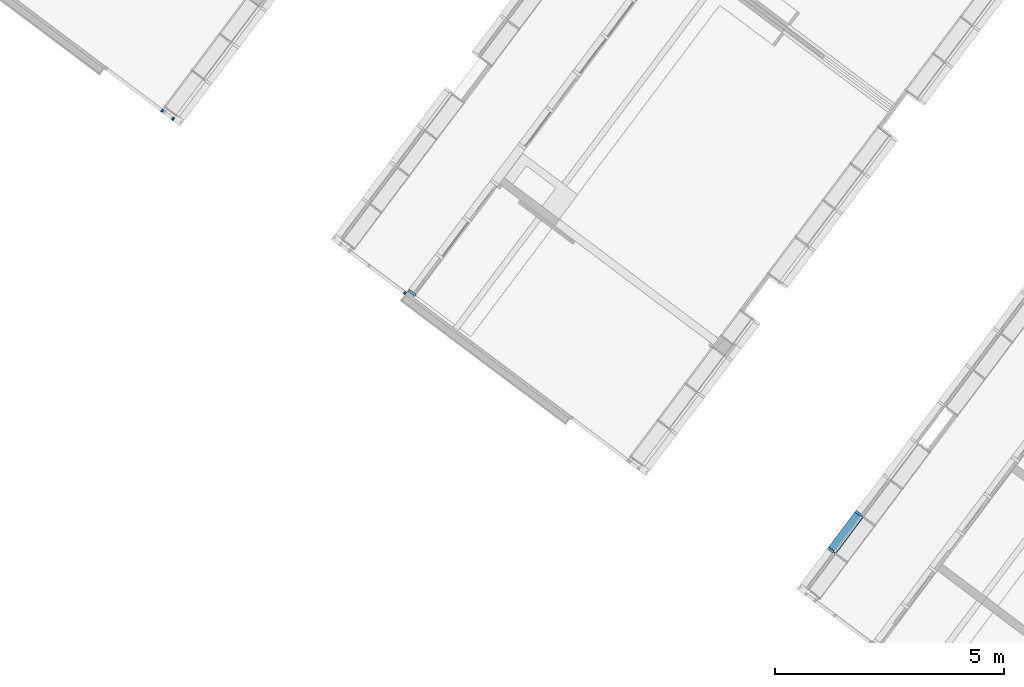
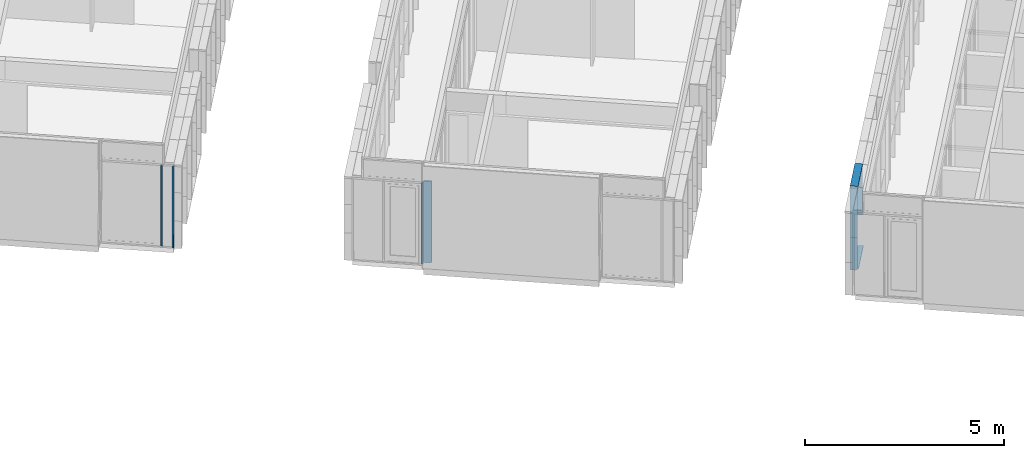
# One storey, part 2 of 243: 9 members, 4 elements without a shape of their own.
"""IFC2X3 building model written with IfcOpenShell, lengths in metres."""

from ifc_helpers import new_model, entity, si_unit, converted_unit, derived_unit, direction, frame, frame_2d, origin, place, context, subcontext, project, spatial, polyline, circle_curve, parameter, trimmed, segment, composite_curve, rectangle, outline, extrude, source, transform, mapped, material, type_object, type_shapes, element, aggregate, save


model = new_model("IFC2X3")

# Units and contexts
model_context = context("Model", 3, precision=1e-05, world=origin(), true_north=direction((6.123031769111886e-17, 1.0)))
body_context = subcontext(model_context, "Body", "Model", "MODEL_VIEW")
ifc_project = project(units=[si_unit("LENGTHUNIT", "METRE"), si_unit("AREAUNIT", "SQUARE_METRE"), si_unit("VOLUMEUNIT", "CUBIC_METRE"), converted_unit("PLANEANGLEUNIT", "DEGREE", entity("IfcRatioMeasure", 0.017453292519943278), si_unit("PLANEANGLEUNIT", "RADIAN"), dimensions=[0, 0, 0, 0, 0, 0, 0]), si_unit("MASSUNIT", "GRAM", prefix="KILO"), derived_unit("MASSDENSITYUNIT", [(si_unit("MASSUNIT", "GRAM", prefix="KILO"), 1), (si_unit("LENGTHUNIT", "METRE"), -3)]), derived_unit("IONCONCENTRATIONUNIT", [(si_unit("MASSUNIT", "GRAM", prefix="KILO"), 1), (si_unit("LENGTHUNIT", "METRE"), -3)]), derived_unit("MOMENTOFINERTIAUNIT", [(si_unit("LENGTHUNIT", "METRE"), 4)]), si_unit("TIMEUNIT", "SECOND"), si_unit("FREQUENCYUNIT", "HERTZ"), si_unit("THERMODYNAMICTEMPERATUREUNIT", "DEGREE_CELSIUS"), derived_unit("THERMALTRANSMITTANCEUNIT", [(si_unit("MASSUNIT", "GRAM", prefix="KILO"), 1), (si_unit("THERMODYNAMICTEMPERATUREUNIT", "KELVIN"), -1), (si_unit("TIMEUNIT", "SECOND"), -3)]), derived_unit("THERMALCONDUCTANCEUNIT", [(si_unit("MASSUNIT", "GRAM", prefix="KILO"), 1), (si_unit("THERMODYNAMICTEMPERATUREUNIT", "KELVIN"), -1), (si_unit("TIMEUNIT", "SECOND"), -3), (si_unit("LENGTHUNIT", "METRE"), 1)]), derived_unit("VOLUMETRICFLOWRATEUNIT", [(si_unit("LENGTHUNIT", "METRE"), 3), (si_unit("TIMEUNIT", "SECOND"), -1)]), derived_unit("MASSFLOWRATEUNIT", [(si_unit("MASSUNIT", "GRAM", prefix="KILO"), 1), (si_unit("TIMEUNIT", "SECOND"), -1)]), derived_unit("ROTATIONALFREQUENCYUNIT", [(si_unit("TIMEUNIT", "SECOND"), -1)]), si_unit("ELECTRICCURRENTUNIT", "AMPERE"), si_unit("ELECTRICVOLTAGEUNIT", "VOLT"), si_unit("POWERUNIT", "WATT"), si_unit("FORCEUNIT", "NEWTON", prefix="KILO"), si_unit("ILLUMINANCEUNIT", "LUX"), si_unit("LUMINOUSFLUXUNIT", "LUMEN"), si_unit("LUMINOUSINTENSITYUNIT", "CANDELA"), derived_unit("USERDEFINED", [(si_unit("MASSUNIT", "GRAM", prefix="KILO"), -1), (si_unit("LENGTHUNIT", "METRE"), -2), (si_unit("TIMEUNIT", "SECOND"), 3), (si_unit("LUMINOUSFLUXUNIT", "LUMEN"), 1)]), derived_unit("USERDEFINED", [(si_unit("MASSUNIT", "GRAM", prefix="KILO"), 1), (si_unit("TIMEUNIT", "SECOND"), -3), (si_unit("LENGTHUNIT", "METRE"), 3), (si_unit("ELECTRICCURRENTUNIT", "AMPERE"), -2)]), derived_unit("SOUNDPOWERUNIT", [(si_unit("MASSUNIT", "GRAM", prefix="KILO"), 1), (si_unit("TIMEUNIT", "SECOND"), -3), (si_unit("LENGTHUNIT", "METRE"), 2)]), derived_unit("SOUNDPRESSUREUNIT", [(si_unit("MASSUNIT", "GRAM", prefix="KILO"), 1), (si_unit("LENGTHUNIT", "METRE"), -1), (si_unit("TIMEUNIT", "SECOND"), -2)]), derived_unit("LINEARVELOCITYUNIT", [(si_unit("LENGTHUNIT", "METRE"), 1), (si_unit("TIMEUNIT", "SECOND"), -1)]), si_unit("PRESSUREUNIT", "PASCAL"), derived_unit("USERDEFINED", [(si_unit("MASSUNIT", "GRAM", prefix="KILO"), 1), (si_unit("LENGTHUNIT", "METRE"), -2), (si_unit("TIMEUNIT", "SECOND"), -2)]), derived_unit("LINEARFORCEUNIT", [(si_unit("MASSUNIT", "GRAM", prefix="KILO"), 1), (si_unit("TIMEUNIT", "SECOND"), -2)]), derived_unit("PLANARFORCEUNIT", [(si_unit("MASSUNIT", "GRAM", prefix="KILO"), 1), (si_unit("LENGTHUNIT", "METRE"), -1), (si_unit("TIMEUNIT", "SECOND"), -2)]), derived_unit("SPECIFICHEATCAPACITYUNIT", [(si_unit("THERMODYNAMICTEMPERATUREUNIT", "KELVIN"), -1), (si_unit("LENGTHUNIT", "METRE"), 2), (si_unit("TIMEUNIT", "SECOND"), -2)]), derived_unit("HEATINGVALUEUNIT", [(si_unit("LENGTHUNIT", "METRE"), 2), (si_unit("TIMEUNIT", "SECOND"), -2)]), derived_unit("VAPORPERMEABILITYUNIT", [(si_unit("LENGTHUNIT", "METRE"), -1), (si_unit("TIMEUNIT", "SECOND"), 1)]), derived_unit("DYNAMICVISCOSITYUNIT", [(si_unit("MASSUNIT", "GRAM", prefix="KILO"), 1), (si_unit("TIMEUNIT", "SECOND"), -1), (si_unit("LENGTHUNIT", "METRE"), -1)]), derived_unit("THERMALEXPANSIONCOEFFICIENTUNIT", [(si_unit("THERMODYNAMICTEMPERATUREUNIT", "KELVIN"), -1)]), derived_unit("MODULUSOFELASTICITYUNIT", [(si_unit("MASSUNIT", "GRAM", prefix="KILO"), 1), (si_unit("LENGTHUNIT", "METRE"), -1), (si_unit("TIMEUNIT", "SECOND"), -2)]), derived_unit("ISOTHERMALMOISTURECAPACITYUNIT", [(si_unit("LENGTHUNIT", "METRE"), 3), (si_unit("MASSUNIT", "GRAM", prefix="KILO"), -1)]), derived_unit("MOISTUREDIFFUSIVITYUNIT", [(si_unit("TIMEUNIT", "SECOND"), -1), (si_unit("LENGTHUNIT", "METRE"), 2)])], contexts=[model_context])

# Site, building, storey
site_placement = place(None, frame((0.0, 0.0, 235.0), z_axis=(0.0, 0.0, 1.0), x_axis=(-0.7996477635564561, 0.6004693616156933, 0.0)))
site = spatial("IfcSite", under=ifc_project, at=site_placement, Name="Default", CompositionType="ELEMENT")
building_placement = place(site_placement, origin())
building = spatial("IfcBuilding", under=site, at=building_placement, CompositionType="ELEMENT")
storey_placement = place(building_placement, origin())
storey = spatial("IfcBuildingStorey", under=building, at=storey_placement, Name="P0- Escola", CompositionType="ELEMENT", Elevation=0.0)

# Curtain wall, member
curtain_wall_type_1 = type_object("IfcCurtainWallType", Name="Muro cortina:MC- INT- a1", PredefinedType="NOTDEFINED")
curtain_wall_1_placement = place(storey_placement, origin())
curtain_wall_1 = element("IfcCurtainWall", 1, at=curtain_wall_1_placement, inside=storey, type_object=curtain_wall_type_1, Name="Muro cortina:MC- INT- a1", ObjectType="Muro cortina:MC- INT- a1")
ifc_material_1 = material(Name="_Fusta massisa- T1")
member_type_1 = type_object("IfcMemberType", Name="Montante rectangular:MC- Fusta- 20x6 cm- Neutre", PredefinedType="MULLION", material=ifc_material_1)
shared_shape_1 = source(origin(), body_context, "Body", "SweptSolid", [
    extrude(rectangle(XDim=0.19999999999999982, YDim=0.06, at=frame_2d((5.551115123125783e-17, 0.0), x_axis=(1.0, 0.0))), frame((-0.03, -0.060000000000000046, -2.5050000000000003), z_axis=(0.0, 0.0, 1.0), x_axis=(0.0, -1.0, 0.0)), (0.0, 0.0, 1.0), 2.5050000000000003),
])
type_shapes(member_type_1, [shared_shape_1])
member_1_placement = place(curtain_wall_1_placement, frame((47.32014768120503, -20.385191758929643, 2.5050000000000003), z_axis=(0.0, 0.0, 1.0), x_axis=(0.0, 1.0, 0.0)))
member_1 = element("IfcMember", 2, at=member_1_placement, type_object=member_type_1, material=ifc_material_1, Name="Montante rectangular:MC- Fusta- 20x6 cm- Neutre", ObjectType="Montante rectangular:MC- Fusta- 20x6 cm- Neutre", context=body_context, shape_type="MappedRepresentation", body=[
    mapped(shared_shape_1, transform((0.0, 0.0, 0.0), scale=1.0)),
])
aggregate(curtain_wall_1, [member_1])

curtain_wall_type_2 = type_object("IfcCurtainWallType", Name="Muro cortina:MC- EXT- AL1- Fa porxo", PredefinedType="NOTDEFINED")
curtain_wall_2_placement = place(storey_placement, origin())
curtain_wall_2 = element("IfcCurtainWall", 3, at=curtain_wall_2_placement, inside=storey, type_object=curtain_wall_type_2, Name="Muro cortina:MC- EXT- AL1- Fa porxo", ObjectType="Muro cortina:MC- EXT- AL1- Fa porxo")
ifc_material_2 = material(Name="_Alumini- T1- Perfil")
member_type_2 = type_object("IfcMemberType", Name="Montante rectangular:MC- Alu- 65x41 cm- Fa Porxo- Centre", PredefinedType="MULLION", material=ifc_material_2)
shared_shape_2 = source(origin(), body_context, "Body", "SweptSolid", [
    extrude(rectangle(XDim=0.06500000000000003, YDim=0.041000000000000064, at=frame_2d((0.0, -8.673617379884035e-18), x_axis=(1.0, 0.0))), frame((-0.020500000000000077, -0.032499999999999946, -2.4977500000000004), z_axis=(0.0, 0.0, 1.0), x_axis=(0.0, -1.0, 0.0)), (0.0, 0.0, 1.0), 2.4977500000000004),
])
type_shapes(member_type_2, [shared_shape_2])
member_2_placement = place(curtain_wall_2_placement, frame((47.48014768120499, -20.288941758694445, 0.021000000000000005), z_axis=(0.0, 0.0, -1.0), x_axis=(-1.0, 0.0, 0.0)))
member_2 = element("IfcMember", 4, at=member_2_placement, type_object=member_type_2, material=ifc_material_2, Name="Montante rectangular:MC- Alu- 65x41 cm- Fa Porxo- Centre", ObjectType="Montante rectangular:MC- Alu- 65x41 cm- Fa Porxo- Centre", context=body_context, shape_type="MappedRepresentation", body=[
    mapped(shared_shape_2, transform((0.0, 0.0, 0.0), scale=1.0)),
])
aggregate(curtain_wall_2, [member_2])

# Curtain wall, members
curtain_wall_type_3 = type_object("IfcCurtainWallType", Name="Muro cortina:MC- EXT- MC5", PredefinedType="NOTDEFINED")
curtain_wall_3_placement = place(storey_placement, origin())
curtain_wall_3 = element("IfcCurtainWall", 5, at=curtain_wall_3_placement, inside=storey, type_object=curtain_wall_type_3, Name="Muro cortina:MC- EXT- MC5", ObjectType="Muro cortina:MC- EXT- MC5")
member_type_3 = type_object("IfcMemberType", Name="Montante rectangular:MC- Alu- 140x52,5 cm- Fa patis- inferior", PredefinedType="MULLION", material=ifc_material_2)
shared_shape_3 = source(origin(), body_context, "Body", "SweptSolid", [
    extrude(outline(composite_curve([segment(polyline([(-0.144167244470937, -0.025867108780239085), (-0.12786724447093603, -0.02586710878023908)]), True, "CONTINUOUS"), segment(polyline([(-0.12786724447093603, -0.02586710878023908), (-0.12786724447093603, -0.023167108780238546)]), True, "CONTINUOUS"), segment(polyline([(-0.12786724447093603, -0.023167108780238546), (-0.0678672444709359, -0.023167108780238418)]), True, "CONTINUOUS"), segment(polyline([(-0.0678672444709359, -0.023167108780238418), (0.07031215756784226, -0.010722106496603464)]), True, "CONTINUOUS"), segment(trimmed(circle_curve(frame_2d((0.07013275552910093, -0.008730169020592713), x_axis=(0.0897010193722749, -0.9959687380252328)), 0.0019999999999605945), [parameter(0.0)], [parameter(84.8535928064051)], True, "PARAMETER"), True, "CONTINUOUS"), segment(polyline([(0.07213275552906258, -0.008730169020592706), (0.07213275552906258, 0.006266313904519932)]), True, "CONTINUOUS"), segment(trimmed(circle_curve(frame_2d((0.07013275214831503, 0.006266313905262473), x_axis=(1.0, 0.0)), 0.0020000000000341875), [parameter(0.0)], [parameter(90.00000002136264)], True, "PARAMETER"), True, "CONTINUOUS"), segment(polyline([(0.070132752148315, 0.008266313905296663), (0.06213275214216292, 0.008266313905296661)]), True, "CONTINUOUS"), segment(polyline([(0.06213275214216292, 0.008266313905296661), (0.06213275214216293, 0.006266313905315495)]), True, "CONTINUOUS"), segment(polyline([(0.06213275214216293, 0.006266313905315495), (0.06963275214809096, 0.006266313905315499)]), True, "CONTINUOUS"), segment(trimmed(circle_curve(frame_2d((0.06963275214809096, 0.005766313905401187), x_axis=(0.0, 1.0)), 0.0004999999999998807), [parameter(269.9999999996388)], [parameter(0.0)], True, "PARAMETER"), False, "CONTINUOUS"), segment(polyline([(0.07013275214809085, 0.005766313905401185), (0.07013275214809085, -0.008730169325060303)]), True, "CONTINUOUS"), segment(polyline([(0.07013275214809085, -0.008730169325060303), (0.03213275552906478, -0.012152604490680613)]), True, "CONTINUOUS"), segment(polyline([(0.03213275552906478, -0.0121526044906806), (0.03213275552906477, 0.029132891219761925)]), True, "CONTINUOUS"), segment(polyline([(0.03213275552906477, 0.029132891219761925), (0.0021327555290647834, 0.029132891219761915)]), True, "CONTINUOUS"), segment(polyline([(0.0021327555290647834, 0.029132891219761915), (0.0021327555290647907, 0.02713289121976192)]), True, "CONTINUOUS"), segment(polyline([(0.0021327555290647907, 0.02713289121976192), (0.03013275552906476, 0.02713289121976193)]), True, "CONTINUOUS"), segment(polyline([(0.03013275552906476, 0.027132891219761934), (0.03013275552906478, -0.012332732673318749)]), True, "CONTINUOUS"), segment(polyline([(0.03013275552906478, -0.012332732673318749), (-0.06786724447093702, -0.021159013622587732)]), True, "CONTINUOUS"), segment(polyline([(-0.06786724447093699, -0.02115901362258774), (-0.067867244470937, 0.009132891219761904)]), True, "CONTINUOUS"), segment(polyline([(-0.06786724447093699, 0.009132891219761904), (-0.14416724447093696, 0.009132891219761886)]), True, "CONTINUOUS"), segment(polyline([(-0.14416724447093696, 0.009132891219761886), (-0.144167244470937, -0.025867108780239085)]), True, "CONTINUOUS")], self_intersect=False)), frame((-0.029132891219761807, -0.06786724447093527, -0.9737499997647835), z_axis=(0.0, 0.0, 1.0), x_axis=(0.0, -1.0, 0.0)), (0.0, 0.0, 1.0), 0.9737499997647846),
])
type_shapes(member_type_3, [shared_shape_3])
member_3_placement = place(curtain_wall_3_placement, frame((36.6451476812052, -21.441441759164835, -0.02), z_axis=(0.0, 1.0, 0.0), x_axis=(0.0, 0.0, -1.0)))
member_3 = element("IfcMember", 6, at=member_3_placement, type_object=member_type_3, material=ifc_material_2, Name="Montante rectangular:MC- Alu- 140x52,5 cm- Fa patis- inferior", ObjectType="Montante rectangular:MC- Alu- 140x52,5 cm- Fa patis- inferior", context=body_context, shape_type="MappedRepresentation", body=[
    mapped(shared_shape_3, transform((0.0, 0.0, 0.0), scale=1.0)),
])
member_type_4 = type_object("IfcMemberType", Name="Montante rectangular:MC- Alu- 140x52,5 cm- Fa patis- Superior", PredefinedType="MULLION", material=ifc_material_2)
shared_shape_4 = source(origin(), body_context, "Body", "SweptSolid", [
    extrude(outline(polyline([(-0.026333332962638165, -0.021249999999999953), (0.11366666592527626, -0.021249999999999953), (0.11366666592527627, 0.031250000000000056), (-0.08733333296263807, 0.03125000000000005), (-0.0873333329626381, -0.010000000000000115), (-0.026333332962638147, -0.010000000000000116), (-0.026333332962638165, -0.021249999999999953)])), frame((-0.031250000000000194, -0.02733333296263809, -1.0), z_axis=(0.0, 0.0, 1.0), x_axis=(0.0, -1.0, 0.0)), (0.0, 0.0, 1.0), 1.0000000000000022),
])
type_shapes(member_type_4, [shared_shape_4])
member_4_placement = place(curtain_wall_3_placement, frame((36.6451476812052, -22.41519175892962, 2.545), z_axis=(0.0, -1.0, 0.0), x_axis=(0.0, 0.0, 1.0)))
member_4 = element("IfcMember", 7, at=member_4_placement, type_object=member_type_4, material=ifc_material_2, Name="Montante rectangular:MC- Alu- 140x52,5 cm- Fa patis- Superior", ObjectType="Montante rectangular:MC- Alu- 140x52,5 cm- Fa patis- Superior", context=body_context, shape_type="MappedRepresentation", body=[
    mapped(shared_shape_4, transform((0.0, 0.0, 0.0), scale=1.0)),
])

curtain_wall_4_placement = place(storey_placement, origin())
curtain_wall_4 = element("IfcCurtainWall", 8, at=curtain_wall_4_placement, inside=storey, type_object=curtain_wall_type_2, Name="Muro cortina:MC- EXT- AL1- Fa porxo", ObjectType="Muro cortina:MC- EXT- AL1- Fa porxo")
member_type_5 = type_object("IfcMemberType", Name="Montante rectangular:MC- Alu- 65x41 cm- Fa Porxo- Centre", PredefinedType="MULLION", material=ifc_material_2)
shared_shape_5 = source(origin(), body_context, "Body", "SweptSolid", [
    extrude(rectangle(XDim=0.06500000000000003, YDim=0.041000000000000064, at=frame_2d((0.0, 3.469446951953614e-18), x_axis=(1.0, 0.0))), frame((-0.02049999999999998, 0.03249999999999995, -2.5122499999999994), z_axis=(0.0, 0.0, 1.0), x_axis=(0.0, -1.0, 0.0)), (0.0, 0.0, 1.0), 2.5122499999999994),
])
type_shapes(member_type_5, [shared_shape_5])
member_5_placement = place(curtain_wall_4_placement, frame((53.80514768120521, -20.288941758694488, 2.49225), z_axis=(0.0, 0.0, 1.0), x_axis=(-1.0, 0.0, 0.0)))
member_5 = element("IfcMember", 9, at=member_5_placement, type_object=member_type_5, material=ifc_material_2, Name="Montante rectangular:MC- Alu- 65x41 cm- Fa Porxo- Centre", ObjectType="Montante rectangular:MC- Alu- 65x41 cm- Fa Porxo- Centre", context=body_context, shape_type="MappedRepresentation", body=[
    mapped(shared_shape_5, transform((0.0, 0.0, 0.0), scale=1.0)),
])
member_type_6 = type_object("IfcMemberType", Name="Montante rectangular:MC- Alu- 65x41 cm- Fa Porxo- Centre", PredefinedType="MULLION", material=ifc_material_2)
shared_shape_6 = source(origin(), body_context, "Body", "SweptSolid", [
    extrude(rectangle(XDim=0.06500000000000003, YDim=0.04100000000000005, at=frame_2d((3.469446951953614e-18, 6.938893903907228e-18), x_axis=(1.0, 0.0))), frame((0.0, 0.03249999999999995, -2.4712500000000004), z_axis=(0.0, 0.0, 1.0), x_axis=(0.0, -1.0, 0.0)), (0.0, 0.0, 1.0), 2.4712500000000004),
])
type_shapes(member_type_6, [shared_shape_6])
member_6_placement = place(curtain_wall_4_placement, frame((54.119647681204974, -20.288941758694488, 0.020999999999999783), z_axis=(0.0, 0.0, -1.0), x_axis=(1.0, 0.0, 0.0)))
member_6 = element("IfcMember", 10, at=member_6_placement, type_object=member_type_6, material=ifc_material_2, Name="Montante rectangular:MC- Alu- 65x41 cm- Fa Porxo- Centre", ObjectType="Montante rectangular:MC- Alu- 65x41 cm- Fa Porxo- Centre", context=body_context, shape_type="MappedRepresentation", body=[
    mapped(shared_shape_6, transform((0.0, 0.0, 0.0), scale=1.0)),
])
aggregate(curtain_wall_4, [member_5, member_6])

# Member
member_type_7 = type_object("IfcMemberType", Name="Montante rectangular:MC- Alu- 140x52,5 cm- Fa patis- Centre", PredefinedType="MULLION", material=ifc_material_2)
shared_shape_7 = source(origin(), body_context, "Body", "SweptSolid", [
    extrude(outline(polyline([(-0.021999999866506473, -0.026250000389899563), (0.11699999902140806, -0.026250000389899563), (0.11699999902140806, 0.026250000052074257), (-0.022000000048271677, 0.026250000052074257), (-0.022000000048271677, 0.015000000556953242), (-0.07299999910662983, 0.015000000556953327), (-0.07299999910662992, -0.01500000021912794), (-0.021999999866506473, -0.01500000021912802), (-0.021999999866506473, -0.026250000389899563)])), frame((0.0, -0.022999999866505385, -1.0), z_axis=(0.0, 0.0, 1.0), x_axis=(0.0, -1.0, 0.0)), (0.0, 0.0, 1.0), 1.0),
])
type_shapes(member_type_7, [shared_shape_7])
member_7_placement = place(curtain_wall_3_placement, frame((36.6451476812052, -21.41519175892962, -0.02), z_axis=(0.0, 0.0, -1.0), x_axis=(0.0, -1.0, 0.0)))
member_7 = element("IfcMember", 11, at=member_7_placement, type_object=member_type_7, material=ifc_material_2, Name="Montante rectangular:MC- Alu- 140x52,5 cm- Fa patis- Centre", ObjectType="Montante rectangular:MC- Alu- 140x52,5 cm- Fa patis- Centre", context=body_context, shape_type="MappedRepresentation", body=[
    mapped(shared_shape_7, transform((0.0, 0.0, 0.0), scale=1.0)),
])

member_type_8 = type_object("IfcMemberType", Name="Montante rectangular:MC- Alu- 140x52,5 cm- Fa patis- Centre", PredefinedType="MULLION", material=ifc_material_2)
shared_shape_8 = source(origin(), body_context, "Body", "SweptSolid", [
    extrude(outline(polyline([(-0.021999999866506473, -0.026250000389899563), (0.11699999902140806, -0.026250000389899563), (0.11699999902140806, 0.026250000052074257), (-0.022000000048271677, 0.026250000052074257), (-0.022000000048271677, 0.015000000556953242), (-0.07299999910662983, 0.015000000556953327), (-0.07299999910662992, -0.01500000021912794), (-0.021999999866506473, -0.01500000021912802), (-0.021999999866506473, -0.026250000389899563)])), frame((0.0, -0.022999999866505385, -1.5124999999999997), z_axis=(0.0, 0.0, 1.0), x_axis=(0.0, -1.0, 0.0)), (0.0, 0.0, 1.0), 1.5124999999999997),
])
type_shapes(member_type_8, [shared_shape_8])
member_8_placement = place(curtain_wall_3_placement, frame((36.6451476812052, -21.41519175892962, 0.98), z_axis=(0.0, 0.0, -1.0), x_axis=(0.0, -1.0, 0.0)))
member_8 = element("IfcMember", 12, at=member_8_placement, type_object=member_type_8, material=ifc_material_2, Name="Montante rectangular:MC- Alu- 140x52,5 cm- Fa patis- Centre", ObjectType="Montante rectangular:MC- Alu- 140x52,5 cm- Fa patis- Centre", context=body_context, shape_type="MappedRepresentation", body=[
    mapped(shared_shape_8, transform((0.0, 0.0, 0.0), scale=1.0)),
])

member_9_placement = place(curtain_wall_3_placement, frame((36.6451476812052, -22.41519175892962, 0.98), z_axis=(0.0, 0.0, -1.0), x_axis=(0.0, -1.0, 0.0)))
member_9 = element("IfcMember", 13, at=member_9_placement, type_object=member_type_8, material=ifc_material_2, Name="Montante rectangular:MC- Alu- 140x52,5 cm- Fa patis- Centre", ObjectType="Montante rectangular:MC- Alu- 140x52,5 cm- Fa patis- Centre", context=body_context, shape_type="MappedRepresentation", body=[
    mapped(shared_shape_8, transform((0.0, 0.0, 0.0), scale=1.0)),
])

aggregate(curtain_wall_3, [member_3, member_7, member_4, member_8, member_9])

save(model, "model.ifc")
